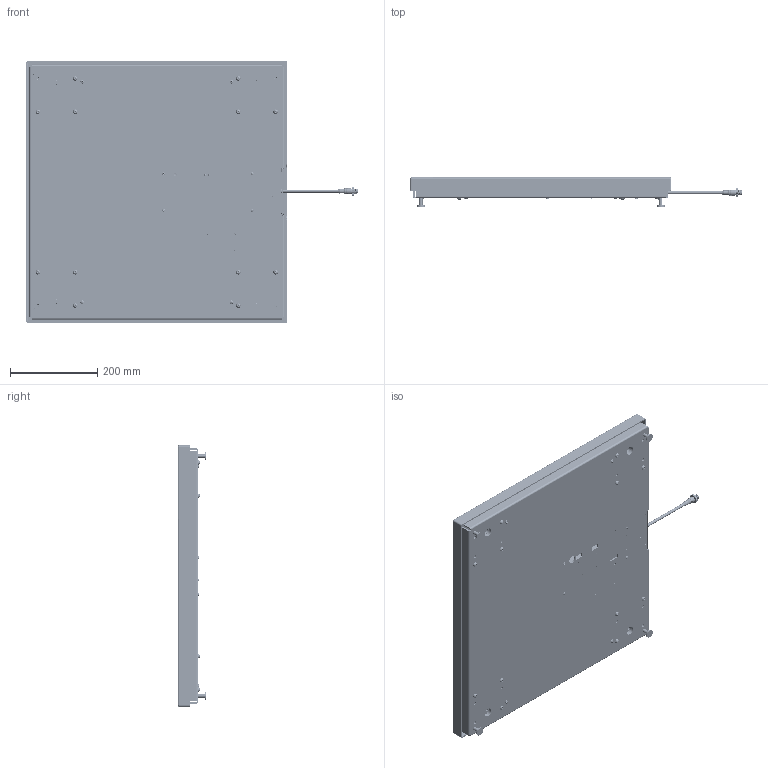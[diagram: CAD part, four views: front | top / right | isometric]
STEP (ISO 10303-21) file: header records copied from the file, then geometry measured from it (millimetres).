
FILE_DESCRIPTION (( 'STEP AP214' ), '1' );
FILE_NAME ('HI2424SBD-660.STEP', '2019-08-15T18:38:26', ( '' ), ( '' ), 'SwSTEP 2.0', 'SolidWorks 2017', '' );
FILE_SCHEMA (( 'AUTOMOTIVE_DESIGN' ));
Length unit declared in the file: millimetre
Products named in the file (55): 0075173_B6; 0075295; 2143-T004; 0067067; 2814-T011_90631A005; 0074535; pan cross head_ai_CR-PHMS 0.164-32x0.3125x0.3125-N-A2.70; 0530-0629-XX; 0075198; 2815-0158_91780A133; 0075233; HI2424SBD-660; 0074918; 4815-0102; 2143-T013; 0530-0865-01-0; 0075200_93505A451; 2817-0272-0_90402A146; 0075230_91780A198; socket head cap screw_am_B18.3.1M - 4 x 0.7 x 8 Hex SHCS -- 8NHX-A2.70; 0074757_Modified By Hardy; 0075287_C2 CHIP; 0075290; hex jam nut_ai_HJNUT 0.2500-20-D-N; 0075175_84-001319; 0075294; pan cross head_ai_CR-PHMS 0.138-32x0.3125x0.3125-N; 0535-0470-03; 0074915_Modified By Hardy_Default<As Machined>; 2814-0098-0_90633A007; 0075309; 6007-0055; 0078239; 6032-0044; 0075172_A6; 0534-0470-02; 0530-0628-01; flat head screw_ai_CR-FHMS 0.164-32x0.875x0.875-N-A2.70; 0514-0239-01-0; 5119-0012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
Assembly tree (111 placements, depth 4):
  HI2424SBD-660
    0074904
      0074915_Modified By Hardy_Default<As Machined>
      0074918  x4
      0078239
    0075309
    0075175_84-001319  x4
      0075172_A6
      0075174_6
      0075173_B6
    hex jam nut_ai_HJNUT 0.2500-20-D-N  x4
    0074757_Modified By Hardy
    0075198  x4
    0075200_93505A451  x4
    0075290
      0075233
      0018546  x4
      0075287_C2 CHIP
      0075295  x4
        0075294
        0075293
    pan cross head_ai_CR-PHMS 0.164-32x0.3125x0.3125-N-A2.70  x4
    0074536  x4
      0074534
      0074535
      0067067
      socket head cap screw_am_B18.3.1M - 5 x 0.8 x 20 Hex SHCS -- 20NHX-A2.70
    0075231_PBSH-300kg 600 X 600  x4
      0075230_91780A198
      0075232_80-001903
      flat head screw_ai_CR-FHMS 0.164-32x0.875x0.875-N-A2.70
      pan cross head_ai_CR-PHMS 0.164-32x0.3125x0.3125-N-A2.70
    socket button head cap screw_am_B18.3.4M - 6 x 1.0 x 20 SBHCS --N-A2.70  x12
    2814-0098-0_90633A007  x2
    0514-0239-01-0
    2817-0272-0_90402A146
    socket head cap screw_am_B18.3.1M - 4 x 0.7 x 8 Hex SHCS -- 8NHX-A2.70
    0535-0470-03
      0534-0470-02
      2807-0008
      5119-0012
      5121-0013
      4815-0102  x2
    2505-0012
    0530-0865-01-0
    2815-0158_91780A133  x4
    pan cross head_ai_CR-PHMS 0.138-32x0.375x0.375-N
    pan cross head_ai_CR-PHMS 0.138-32x0.3125x0.3125-N  x8
    6007-0055
    6032-0044
    2143-T004
    2143-T013
    flat washer type a selected narrow_ai_Selected Narrow FW 0.125
    2814-T011_90631A005
    0530-0628-01
    0530-0629-XX
Bounding box: 762.12 x 66.39 x 600 mm (x, y, z)
Volume: 3414475.9 mm3; surface area: 2018321.1 mm2
Topology: 233 solids, 248 shells, 12742 faces, 33180 edges, 21397 vertices
Faces by surface type: plane 7941, cylinder 2473, bspline 1144, cone 880, torus 240, sphere 64
Entity records: 383734 total; most frequent: CARTESIAN_POINT 91293, ORIENTED_EDGE 48210, DIRECTION 39757, EDGE_CURVE 24142, VECTOR 18055, LINE 18055, VERTEX_POINT 15840, AXIS2_PLACEMENT_3D 10851
